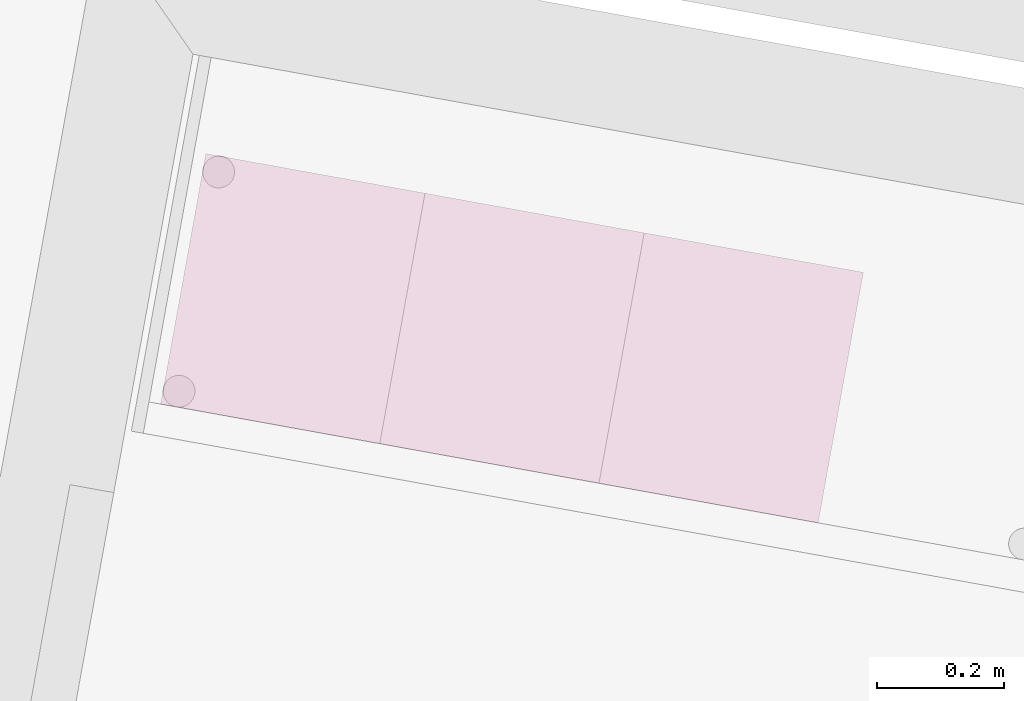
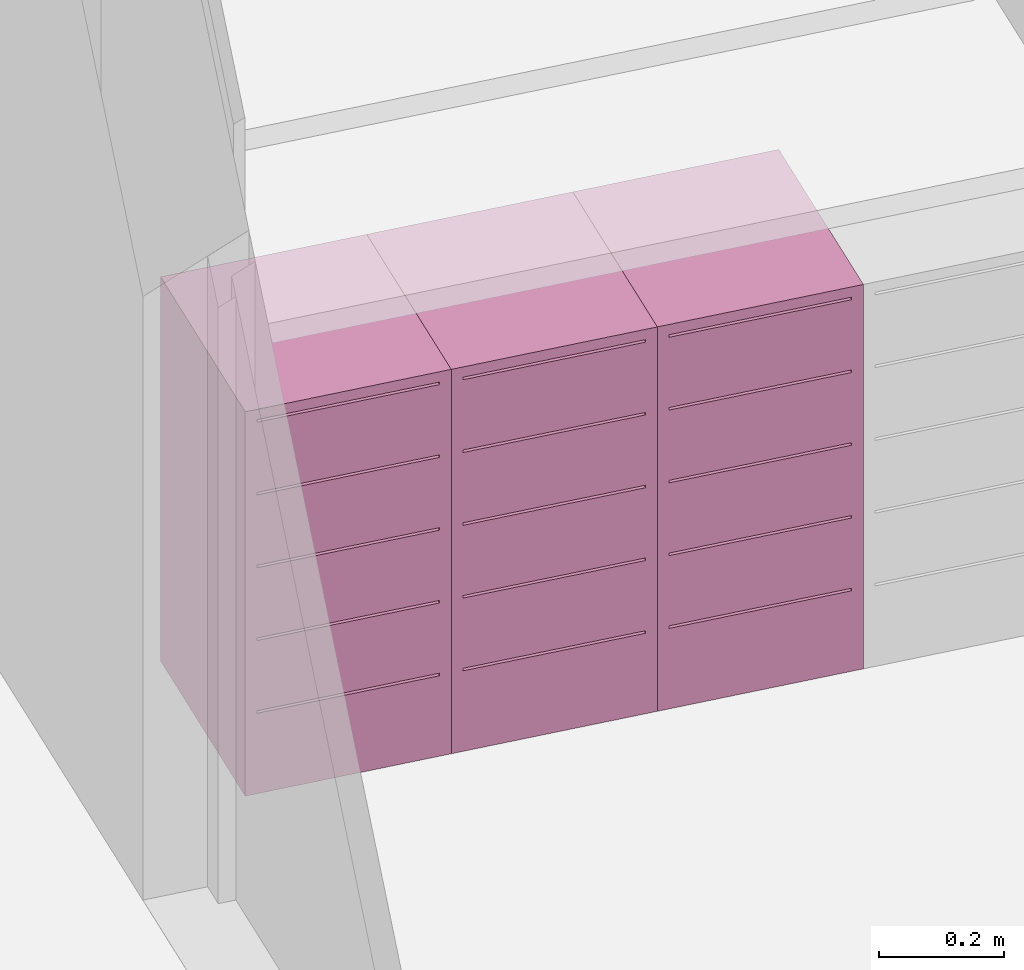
# One storey, part 17 of 79: 3 furnishings.
"""IFC2X3 building model written with IfcOpenShell, lengths in metres."""

from ifc_helpers import new_model, entity, si_unit, converted_unit, derived_unit, money_unit, direction, frame, origin_with_axes, place, context, subcontext, project, spatial, open_shell, faceted_brep, surface_model, source, transform, mapped, material, type_object, element, save


model = new_model("IFC2X3")

# Units and contexts
model_context = context("Model", 3, precision=1e-05, world=origin_with_axes(), true_north=direction((0.0, 1.0)))
body_context = subcontext(model_context, "Body", "Model", "MODEL_VIEW")
ifc_project = project(units=[si_unit("LENGTHUNIT", "METRE"), si_unit("AREAUNIT", "SQUARE_METRE"), si_unit("VOLUMEUNIT", "CUBIC_METRE"), converted_unit("PLANEANGLEUNIT", "DEGREE", entity("IfcPlaneAngleMeasure", 0.0174532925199), si_unit("PLANEANGLEUNIT", "RADIAN"), dimensions=[0, 0, 0, 0, 0, 0, 0]), money_unit("CHF"), converted_unit("TIMEUNIT", "Year", entity("IfcTimeMeasure", 31556926.0), si_unit("TIMEUNIT", "SECOND"), dimensions=[0, 0, 1, 0, 0, 0, 0]), si_unit("MASSUNIT", "GRAM", prefix="KILO"), si_unit("THERMODYNAMICTEMPERATUREUNIT", "DEGREE_CELSIUS"), si_unit("LUMINOUSINTENSITYUNIT", "LUMEN"), si_unit("ENERGYUNIT", "JOULE", prefix="MEGA"), derived_unit("THERMALCONDUCTANCEUNIT", [(si_unit("POWERUNIT", "WATT"), 1), (si_unit("LENGTHUNIT", "METRE"), -1), (si_unit("THERMODYNAMICTEMPERATUREUNIT", "KELVIN"), -1)]), derived_unit("SPECIFICHEATCAPACITYUNIT", [(si_unit("ENERGYUNIT", "JOULE"), 1), (si_unit("MASSUNIT", "GRAM", prefix="KILO"), -1), (si_unit("THERMODYNAMICTEMPERATUREUNIT", "KELVIN"), -1)]), derived_unit("MASSDENSITYUNIT", [(si_unit("MASSUNIT", "GRAM", prefix="KILO"), 1), (si_unit("VOLUMEUNIT", "CUBIC_METRE"), -1)])], contexts=[model_context])

# Site, building, storey
site_placement = place(None, frame((0.0, 0.0, 0.0), z_axis=(0.0, 0.0, 1.0), x_axis=(-0.177771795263, -0.984071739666, 0.0)))
site = spatial("IfcSite", under=ifc_project, at=site_placement, Name="Site", CompositionType="ELEMENT")
building_placement = place(site_placement, origin_with_axes())
building = spatial("IfcBuilding", under=site, at=building_placement, Name="Bâtiment", CompositionType="ELEMENT")
storey_placement = place(building_placement, origin_with_axes())
storey = spatial("IfcBuildingStorey", under=building, at=storey_placement, Name="RDC", CompositionType="ELEMENT", Elevation=0.0)

# Furnishings
ifc_material = material(Name="Matériau de construction IFC")
furnishing_element_type = type_object("IfcFurnishingElementType", Name="Caisson à roulettes 3 21")
shared_shape = source(origin_with_axes(), body_context, "Body", "SurfaceModel", [
    surface_model("IfcShellBasedSurfaceModel", [(0.33, 0.02, 0.0), (0.02, 0.02, 0.0), (0.02, 0.4, 0.0), (0.33, 0.4, 0.0)], [open_shell([[[0, 1, 2, 3]]])]),
    faceted_brep([(0.0, 0.4, 0.0), (0.35, 0.4, 0.0), (0.35, 0.0, 0.0), (0.0, 0.0, 0.0), (0.0, 0.4, 0.75), (0.35, 0.4, 0.75), (0.02, 0.4, 0.02), (0.33, 0.4, 0.02), (0.33, 0.4, 0.73), (0.02, 0.4, 0.73), (0.35, 0.0, 0.75), (0.0, 0.0, 0.75), (0.02, 0.0, 0.02), (0.02, 0.0, 0.73), (0.33, 0.0, 0.73), (0.33, 0.0, 0.02)], [[[0, 1, 2, 3]], [[0, 4, 5, 1], [6, 7, 8, 9]], [[1, 5, 10, 2]], [[3, 2, 10, 11], [12, 13, 14, 15]], [[4, 0, 3, 11]], [[5, 4, 11, 10]], [[7, 6, 12, 15]], [[8, 7, 15, 14]], [[9, 8, 14, 13]], [[6, 9, 13, 12]]]),
    faceted_brep([(0.33, 0.4, 0.02), (0.02, 0.4, 0.02), (0.02, 0.4, 0.73), (0.33, 0.4, 0.73), (0.33, 0.38, 0.02), (0.02, 0.38, 0.02), (0.02, 0.38, 0.73), (0.33, 0.38, 0.73)], [[[0, 1, 2, 3]], [[1, 0, 4, 5]], [[2, 1, 5, 6]], [[3, 2, 6, 7]], [[0, 3, 7, 4]], [[5, 4, 7, 6]]]),
    faceted_brep([(0.33, 0.0, 0.02), (0.02, 0.0, 0.02), (0.02, 0.38, 0.02), (0.33, 0.38, 0.02), (0.33, 0.0, 0.157), (0.02, 0.0, 0.157), (0.02, 0.38, 0.157), (0.33, 0.38, 0.157)], [[[0, 1, 2, 3]], [[1, 0, 4, 5]], [[2, 1, 5, 6]], [[3, 2, 6, 7]], [[0, 3, 7, 4]], [[5, 4, 7, 6]]]),
    faceted_brep([(0.33, 0.0, 0.162), (0.02, 0.0, 0.162), (0.02, 0.38, 0.162), (0.33, 0.38, 0.162), (0.33, 0.0, 0.299), (0.02, 0.0, 0.299), (0.02, 0.38, 0.299), (0.33, 0.38, 0.299)], [[[0, 1, 2, 3]], [[1, 0, 4, 5]], [[2, 1, 5, 6]], [[3, 2, 6, 7]], [[0, 3, 7, 4]], [[5, 4, 7, 6]]]),
    faceted_brep([(0.33, 0.0, 0.304), (0.02, 0.0, 0.304), (0.02, 0.38, 0.304), (0.33, 0.38, 0.304), (0.33, 0.0, 0.441), (0.02, 0.0, 0.441), (0.02, 0.38, 0.441), (0.33, 0.38, 0.441)], [[[0, 1, 2, 3]], [[1, 0, 4, 5]], [[2, 1, 5, 6]], [[3, 2, 6, 7]], [[0, 3, 7, 4]], [[5, 4, 7, 6]]]),
    faceted_brep([(0.33, 0.0, 0.446), (0.02, 0.0, 0.446), (0.02, 0.38, 0.446), (0.33, 0.38, 0.446), (0.33, 0.0, 0.583), (0.02, 0.0, 0.583), (0.02, 0.38, 0.583), (0.33, 0.38, 0.583)], [[[0, 1, 2, 3]], [[1, 0, 4, 5]], [[2, 1, 5, 6]], [[3, 2, 6, 7]], [[0, 3, 7, 4]], [[5, 4, 7, 6]]]),
    faceted_brep([(0.33, 0.0, 0.588), (0.02, 0.0, 0.588), (0.02, 0.38, 0.588), (0.33, 0.38, 0.588), (0.33, 0.0, 0.725), (0.02, 0.0, 0.725), (0.02, 0.38, 0.725), (0.33, 0.38, 0.725)], [[[0, 1, 2, 3]], [[1, 0, 4, 5]], [[2, 1, 5, 6]], [[3, 2, 6, 7]], [[0, 3, 7, 4]], [[5, 4, 7, 6]]]),
])
for number, where, z_axis, x_axis in (
    (1, (129.234860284, -156.399529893, 0.05), (0.0, 0.0, 1.0), (0.0, 1.0, 0.0)),
    (2, (129.234860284, -156.049529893, 0.05), (0.0, 0.0, 1.0), (0.0, 1.0, 0.0)),
    (3, (129.234860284, -155.699529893, 0.05), (0.0, 0.0, 1.0), (0.0, 1.0, 0.0)),
):
    element("IfcFurnishingElement", number, at=place(storey_placement, frame(where, z_axis=z_axis, x_axis=x_axis)), inside=storey, type_object=furnishing_element_type, material=ifc_material, Name="tiroirs-classe", ObjectType="SYSTEM_FURNITURE", context=body_context, shape_type="MappedRepresentation", body=[
        mapped(shared_shape, transform((0.0, 0.0, 0.0))),
    ])

save(model, "model.ifc")
